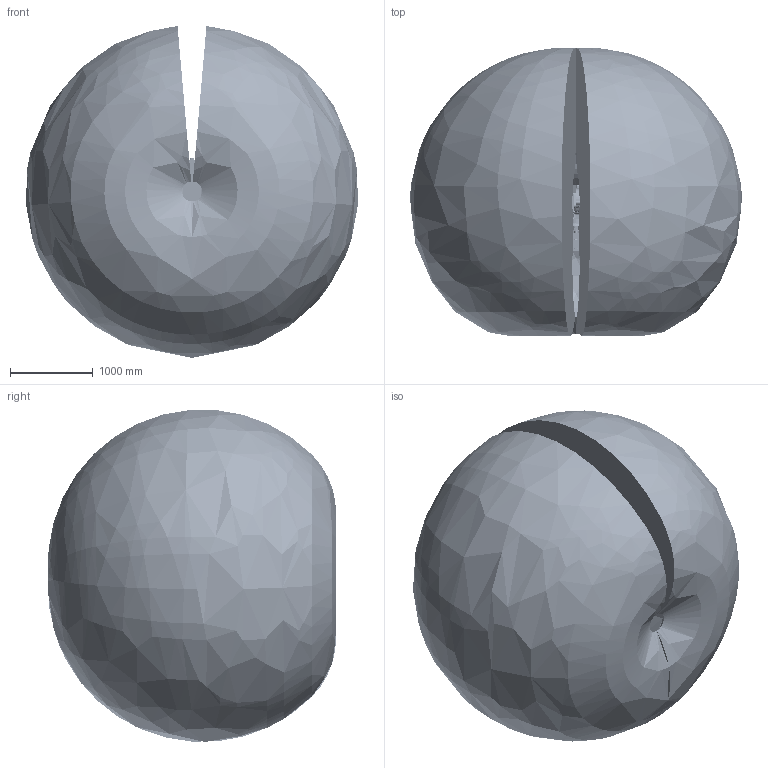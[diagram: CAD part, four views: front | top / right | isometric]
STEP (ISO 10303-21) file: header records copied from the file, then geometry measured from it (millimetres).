
FILE_DESCRIPTION((''),'2;1');
FILE_NAME('R50-1_ASM','2023-10-13T15:33:16',('zty'),(''),'CREO PARAMETRIC BY PTC INC, 2018260','CREO PARAMETRIC BY PTC INC, 2018260','');
FILE_SCHEMA(('CONFIG_CONTROL_DESIGN','SHAPE_APPEARANCE_LAYERS_GROUPS'));
Products named in the file (10): R50-1_BASE; R50-1_JOINT1; R50-1_JOINT2; R50-1_JOINT3; R50-1_JOINT4; R50-1_JOINT5; R50-1_JOINT6; R50-1_RANGE; R50-1_RANGE_2; R50-1_ASM
Assembly tree (9 placements, depth 2):
  R50-1_ASM
    R50-1_BASE
    R50-1_JOINT1
    R50-1_JOINT2
    R50-1_JOINT3
    R50-1_JOINT4
    R50-1_JOINT5
    R50-1_JOINT6
    R50-1_RANGE
    R50-1_RANGE_2
Bounding box: 4008.77 x 3479.73 x 4010.2 mm (x, y, z)
Volume: 30090824230.1 mm3; surface area: 84805425.3 mm2
Topology: 9 solids, 26 shells, 14277 faces, 35373 edges, 21661 vertices
Faces by surface type: cylinder 5455, plane 4126, torus 2230, bspline 1419, cone 827, sphere 220
Entity records: 491111 total; most frequent: CARTESIAN_POINT 155030, DIRECTION 71647, ORIENTED_EDGE 69964, EDGE_CURVE 34982, AXIS2_PLACEMENT_3D 28567, VERTEX_POINT 21658, CIRCLE 15690, EDGE_LOOP 15392
